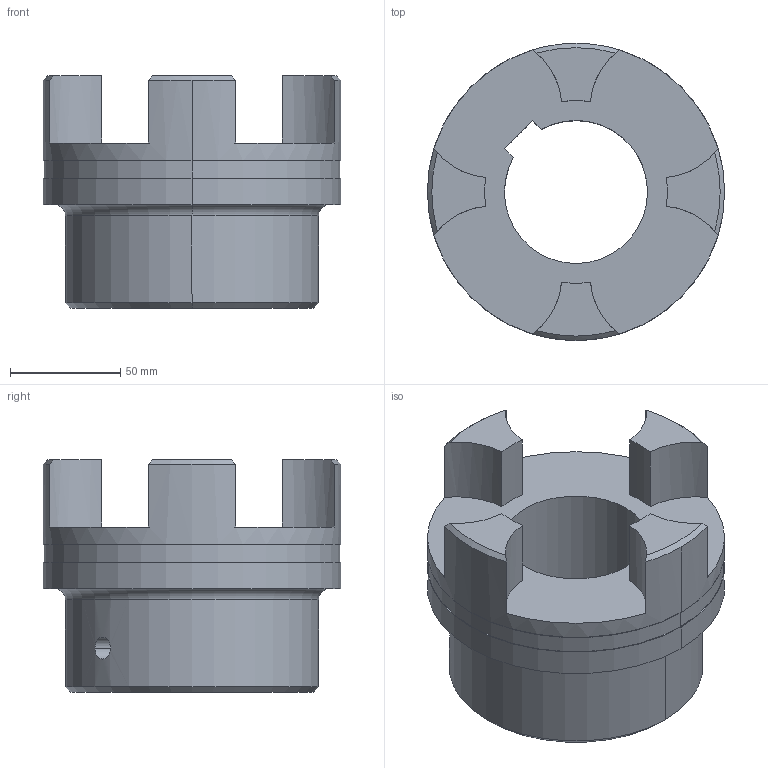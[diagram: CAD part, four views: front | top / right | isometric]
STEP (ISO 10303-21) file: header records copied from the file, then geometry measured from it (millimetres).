
FILE_DESCRIPTION((''),'2;1');
FILE_NAME('020655006500_INT','2021-12-16T10:01:07',('W.Rathmann'),(''),'CREO PARAMETRIC BY PTC INC, 2020044','CREO PARAMETRIC BY PTC INC, 2020044','');
FILE_SCHEMA(('CONFIG_CONTROL_DESIGN'));
Length unit declared in the file: millimetre
Products named in the file (1): 020655006500_INT
Bounding box: 135 x 135 x 105.5 mm (x, y, z)
Volume: 703106.7 mm3; surface area: 79347.2 mm2
Topology: 1 solids, 1 shells, 43 faces, 117 edges, 86 vertices
Faces by surface type: cylinder 23, plane 12, cone 6, torus 2
Entity records: 1470 total; most frequent: CARTESIAN_POINT 299, DIRECTION 257, ORIENTED_EDGE 220, EDGE_CURVE 110, AXIS2_PLACEMENT_3D 106, VERTEX_POINT 72, CIRCLE 62, EDGE_LOOP 50
